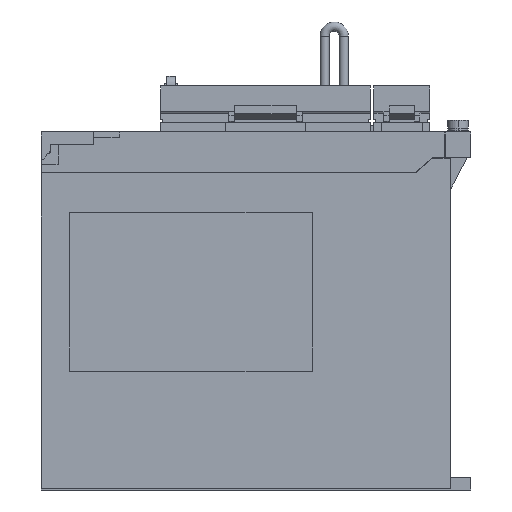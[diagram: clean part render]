
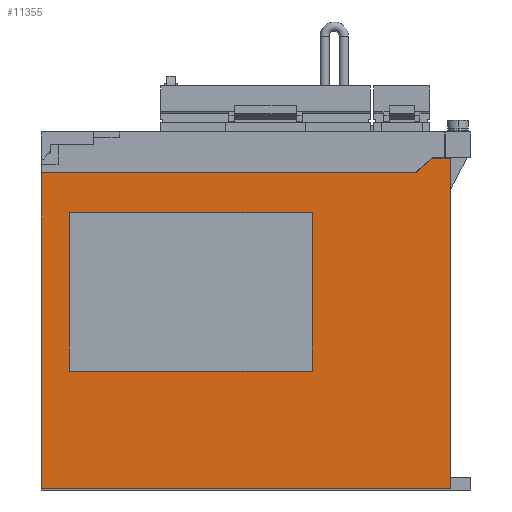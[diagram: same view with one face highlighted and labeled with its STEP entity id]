
A CAD part, left-side view. The second image highlights one B-rep face of the part: STEP entity #11355.
In plain terms, the highlighted planar face has unit normal (-1, 0, 0).
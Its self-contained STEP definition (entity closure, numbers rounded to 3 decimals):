
#7716 = VERTEX_POINT ( 'NONE', #28889 ) ;
#7718 = EDGE_CURVE ( 'NONE', #7716, #7780, #28888, .T. ) ;
#7780 = VERTEX_POINT ( 'NONE', #29030 ) ;
#8190 = VERTEX_POINT ( 'NONE', #29692 ) ;
#8228 = VERTEX_POINT ( 'NONE', #29757 ) ;
#8230 = EDGE_CURVE ( 'NONE', #8190, #8228, #29756, .T. ) ;
#11348 = ORIENTED_EDGE ( 'NONE', *, *, #8230, .T. ) ;
#11349 = ORIENTED_EDGE ( 'NONE', *, *, #11350, .T. ) ;
#11350 = EDGE_CURVE ( 'NONE', #8228, #7780, #35208, .T. ) ;
#11355 = ADVANCED_FACE ( 'NONE', ( #35194, #35193 ), #35192, .F. ) ;
#11356 = EDGE_LOOP ( 'NONE', ( #11357, #11361, #11364, #11424 ) ) ;
#11357 = ORIENTED_EDGE ( 'NONE', *, *, #11358, .F. ) ;
#11358 = EDGE_CURVE ( 'NONE', #11359, #11360, #35187, .T. ) ;
#11359 = VERTEX_POINT ( 'NONE', #35183 ) ;
#11360 = VERTEX_POINT ( 'NONE', #35182 ) ;
#11361 = ORIENTED_EDGE ( 'NONE', *, *, #11362, .F. ) ;
#11362 = EDGE_CURVE ( 'NONE', #11363, #11359, #35244, .T. ) ;
#11363 = VERTEX_POINT ( 'NONE', #35240 ) ;
#11364 = ORIENTED_EDGE ( 'NONE', *, *, #11365, .F. ) ;
#11365 = EDGE_CURVE ( 'NONE', #11366, #11363, #35239, .T. ) ;
#11366 = VERTEX_POINT ( 'NONE', #35235 ) ;
#11367 = EDGE_LOOP ( 'NONE', ( #11426, #11427, #11430, #11433, #11348, #11349 ) ) ;
#11424 = ORIENTED_EDGE ( 'NONE', *, *, #11425, .F. ) ;
#11425 = EDGE_CURVE ( 'NONE', #11360, #11366, #35337, .T. ) ;
#11426 = ORIENTED_EDGE ( 'NONE', *, *, #7718, .F. ) ;
#11427 = ORIENTED_EDGE ( 'NONE', *, *, #11428, .F. ) ;
#11428 = EDGE_CURVE ( 'NONE', #11429, #7716, #35333, .T. ) ;
#11429 = VERTEX_POINT ( 'NONE', #35329 ) ;
#11430 = ORIENTED_EDGE ( 'NONE', *, *, #11431, .F. ) ;
#11431 = EDGE_CURVE ( 'NONE', #11432, #11429, #35328, .T. ) ;
#11432 = VERTEX_POINT ( 'NONE', #35324 ) ;
#11433 = ORIENTED_EDGE ( 'NONE', *, *, #11434, .F. ) ;
#11434 = EDGE_CURVE ( 'NONE', #8190, #11432, #35323, .T. ) ;
#28885 = DIRECTION ( 'NONE',  ( 0., 0., -1. ) ) ;
#28886 = VECTOR ( 'NONE', #28885, 1000. ) ;
#28887 = CARTESIAN_POINT ( 'NONE',  ( -35., -155., 288.924 ) ) ;
#28888 = LINE ( 'NONE', #28887, #28886 ) ;
#28889 = CARTESIAN_POINT ( 'NONE',  ( -35., -155., 129.8 ) ) ;
#29030 = CARTESIAN_POINT ( 'NONE',  ( -35., -155., 0.5 ) ) ;
#29692 = CARTESIAN_POINT ( 'NONE',  ( -35., 5., 124. ) ) ;
#29753 = DIRECTION ( 'NONE',  ( 0., 0., -1. ) ) ;
#29754 = VECTOR ( 'NONE', #29753, 1000. ) ;
#29755 = CARTESIAN_POINT ( 'NONE',  ( -35., 5., 288.924 ) ) ;
#29756 = LINE ( 'NONE', #29755, #29754 ) ;
#29757 = CARTESIAN_POINT ( 'NONE',  ( -35., 5., 0.5 ) ) ;
#35182 = CARTESIAN_POINT ( 'NONE',  ( -35., -101., 108.5 ) ) ;
#35183 = CARTESIAN_POINT ( 'NONE',  ( -35., -101., 46.5 ) ) ;
#35184 = DIRECTION ( 'NONE',  ( 0., 0., 1. ) ) ;
#35185 = VECTOR ( 'NONE', #35184, 1000. ) ;
#35186 = CARTESIAN_POINT ( 'NONE',  ( -35., -101., 46.5 ) ) ;
#35187 = LINE ( 'NONE', #35186, #35185 ) ;
#35188 = DIRECTION ( 'NONE',  ( 0., 0., -1. ) ) ;
#35189 = DIRECTION ( 'NONE',  ( 1., 0., 0. ) ) ;
#35190 = CARTESIAN_POINT ( 'NONE',  ( -35., 5., 288.924 ) ) ;
#35191 = AXIS2_PLACEMENT_3D ( 'NONE', #35190, #35189, #35188 ) ;
#35192 = PLANE ( 'NONE',  #35191 ) ;
#35193 = FACE_OUTER_BOUND ( 'NONE', #11367, .T. ) ;
#35194 = FACE_BOUND ( 'NONE', #11356, .T. ) ;
#35205 = DIRECTION ( 'NONE',  ( 0., -1., 0. ) ) ;
#35206 = VECTOR ( 'NONE', #35205, 1000. ) ;
#35207 = CARTESIAN_POINT ( 'NONE',  ( -35., 5., 0.5 ) ) ;
#35208 = LINE ( 'NONE', #35207, #35206 ) ;
#35235 = CARTESIAN_POINT ( 'NONE',  ( -35., -6., 108.5 ) ) ;
#35236 = DIRECTION ( 'NONE',  ( 0., 0., -1. ) ) ;
#35237 = VECTOR ( 'NONE', #35236, 1000. ) ;
#35238 = CARTESIAN_POINT ( 'NONE',  ( -35., -6., 46.5 ) ) ;
#35239 = LINE ( 'NONE', #35238, #35237 ) ;
#35240 = CARTESIAN_POINT ( 'NONE',  ( -35., -6., 46.5 ) ) ;
#35241 = DIRECTION ( 'NONE',  ( 0., -1., 0. ) ) ;
#35242 = VECTOR ( 'NONE', #35241, 1000. ) ;
#35243 = CARTESIAN_POINT ( 'NONE',  ( -35., -6., 46.5 ) ) ;
#35244 = LINE ( 'NONE', #35243, #35242 ) ;
#35319 = DIRECTION ( 'NONE',  ( 0., -1., 0. ) ) ;
#35321 = VECTOR ( 'NONE', #35319, 1000. ) ;
#35322 = CARTESIAN_POINT ( 'NONE',  ( -35., 13.365, 124. ) ) ;
#35323 = LINE ( 'NONE', #35322, #35321 ) ;
#35324 = CARTESIAN_POINT ( 'NONE',  ( -35., -141.328, 124. ) ) ;
#35325 = DIRECTION ( 'NONE',  ( 0., -0.755, 0.656 ) ) ;
#35326 = VECTOR ( 'NONE', #35325, 1000. ) ;
#35327 = CARTESIAN_POINT ( 'NONE',  ( -35., -141.328, 124. ) ) ;
#35328 = LINE ( 'NONE', #35327, #35326 ) ;
#35329 = CARTESIAN_POINT ( 'NONE',  ( -35., -148., 129.8 ) ) ;
#35330 = DIRECTION ( 'NONE',  ( 0., -1., 0. ) ) ;
#35331 = VECTOR ( 'NONE', #35330, 1000. ) ;
#35332 = CARTESIAN_POINT ( 'NONE',  ( -35., -153., 129.8 ) ) ;
#35333 = LINE ( 'NONE', #35332, #35331 ) ;
#35334 = DIRECTION ( 'NONE',  ( 0., 1., 0. ) ) ;
#35335 = VECTOR ( 'NONE', #35334, 1000. ) ;
#35336 = CARTESIAN_POINT ( 'NONE',  ( -35., -6., 108.5 ) ) ;
#35337 = LINE ( 'NONE', #35336, #35335 ) ;
